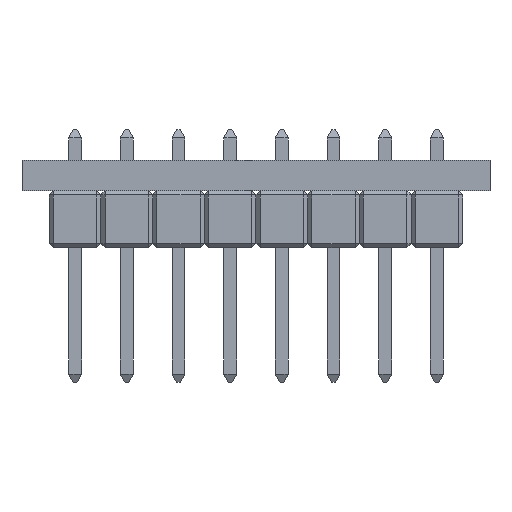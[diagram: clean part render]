
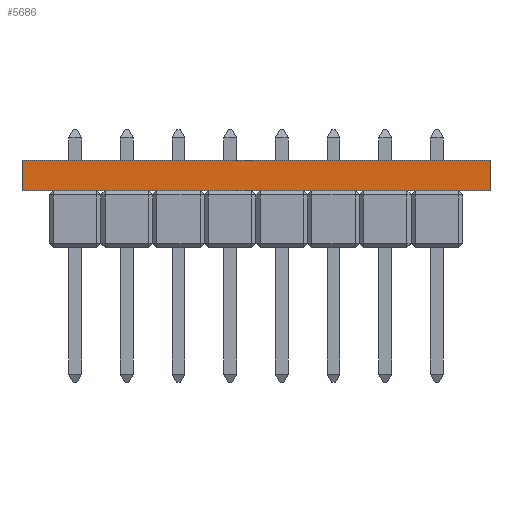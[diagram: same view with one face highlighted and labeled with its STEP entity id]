
A CAD part, left-side view. The second image highlights one B-rep face of the part: STEP entity #5686.
In plain terms, the highlighted planar face has unit normal (-1, 0, 0).
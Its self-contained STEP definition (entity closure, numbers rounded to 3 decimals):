
#5020=FACE_OUTER_BOUND('',#7282,.T.);
#5686=ADVANCED_FACE('BS',(#5020),#6390,.T.);
#6390=PLANE('',#15953);
#7282=EDGE_LOOP('',(#8157,#8158,#8159,#8160));
#8157=ORIENTED_EDGE('',*,*,#11810,.T.);
#8158=ORIENTED_EDGE('',*,*,#11808,.T.);
#8159=ORIENTED_EDGE('',*,*,#11811,.F.);
#8160=ORIENTED_EDGE('',*,*,#11713,.T.);
#10933=VERTEX_POINT('',#19629);
#10934=VERTEX_POINT('',#19631);
#11022=VERTEX_POINT('',#19816);
#11024=VERTEX_POINT('',#19820);
#11713=EDGE_CURVE('',#10934,#10933,#13151,.T.);
#11808=EDGE_CURVE('',#11022,#11024,#13220,.T.);
#11810=EDGE_CURVE('',#10933,#11022,#13222,.T.);
#11811=EDGE_CURVE('',#10934,#11024,#13223,.T.);
#13151=LINE('',#19630,#14547);
#13220=LINE('',#19821,#14616);
#13222=LINE('',#19824,#14618);
#13223=LINE('',#19826,#14619);
#14547=VECTOR('',#16702,1.);
#14616=VECTOR('',#16833,1.);
#14618=VECTOR('',#16837,1.);
#14619=VECTOR('',#16840,1.);
#15953=AXIS2_PLACEMENT_3D('',#19827,#16841,#16842);
#16702=DIRECTION('',(0.,-1.,0.));
#16833=DIRECTION('',(0.,1.,0.));
#16837=DIRECTION('',(0.,0.,1.));
#16840=DIRECTION('',(0.,0.,1.));
#16841=DIRECTION('',(-1.,0.,0.));
#16842=DIRECTION('',(0.,0.,1.));
#19629=CARTESIAN_POINT('',(-23.62,-11.5,0.));
#19630=CARTESIAN_POINT('',(-23.62,0.,0.));
#19631=CARTESIAN_POINT('',(-23.62,11.5,0.));
#19816=CARTESIAN_POINT('',(-23.62,-11.5,1.5));
#19820=CARTESIAN_POINT('',(-23.62,11.5,1.5));
#19821=CARTESIAN_POINT('',(-23.62,0.,1.5));
#19824=CARTESIAN_POINT('',(-23.62,-11.5,0.));
#19826=CARTESIAN_POINT('',(-23.62,11.5,0.));
#19827=CARTESIAN_POINT('',(-23.62,0.,0.));
